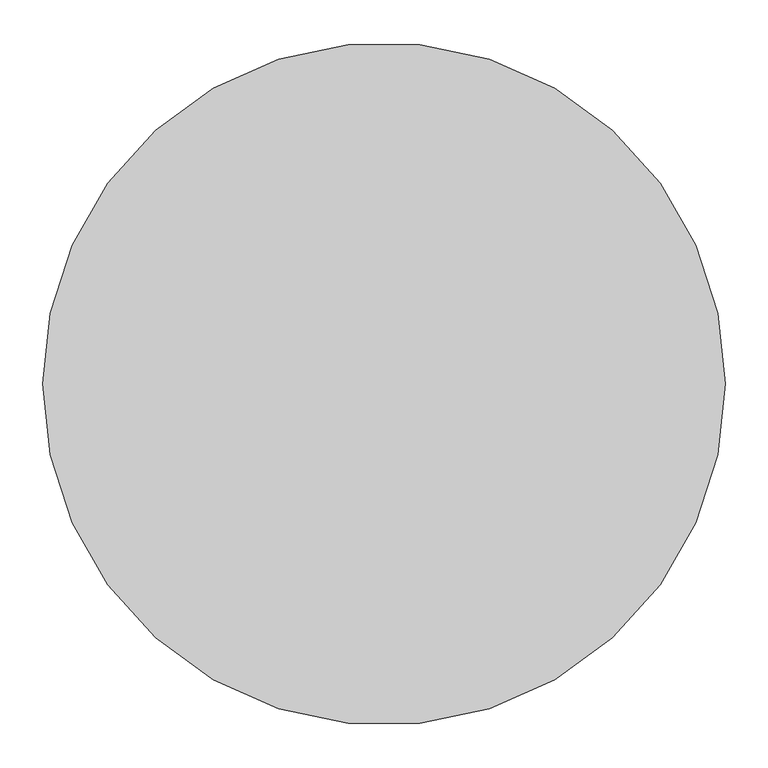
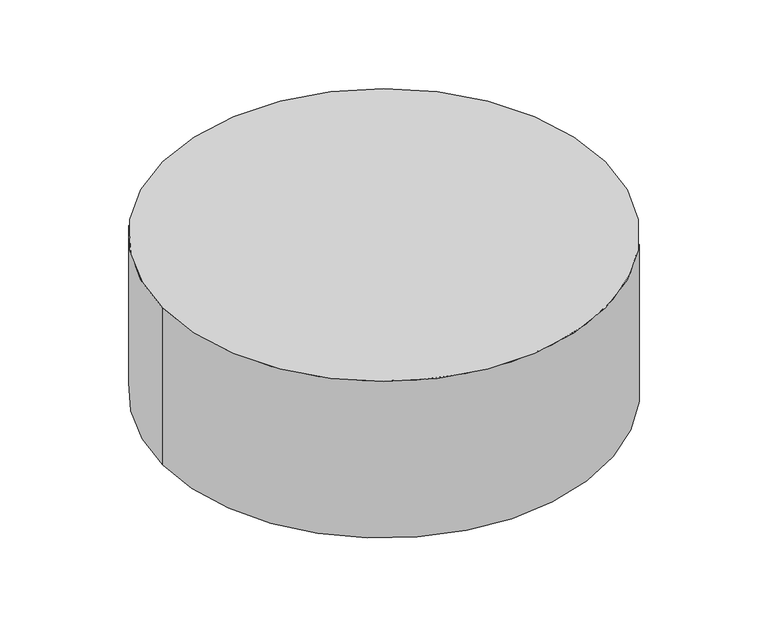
"""IFC4 building model written with IfcOpenShell, lengths in millimetres: furniture geometry, Puff.0001 : Puff.0001."""

from ifc_helpers import new_model, si_unit, point, origin, origin_with_axes, origin_2d, place, context, project, spatial, circle_curve, trimmed, segment, composite_curve, outline, extrude, source, transform, mapped, element, save


def furniture_f6384452(model_context):
    return source(origin(), model_context, "Body", "SweptSolid", [
        extrude(outline(composite_curve([segment(trimmed(circle_curve(origin_2d(), 400.0), [point((-400.0, 0.0))], [point((400.0, 0.0))], False, "CARTESIAN"), True, "CONTINUOUS"), segment(trimmed(circle_curve(origin_2d(), 400.0), [point((400.0, 0.0))], [point((-400.0, 0.0))], False, "CARTESIAN"), True, "CONTINUOUS")], self_intersect=False)), origin_with_axes(), (0.0, 0.0, 1.0), 300.0),
    ])


if __name__ == "__main__":
    model = new_model("IFC4")
    model_context = context("Model", 3, world=origin())
    ifc_project = project(units=[si_unit("LENGTHUNIT", "METRE", prefix="MILLI")], contexts=[model_context])
    site = spatial("IfcSite", under=ifc_project)
    building = spatial("IfcBuilding", under=site)
    placement = place(None, origin())
    furniture_shape = furniture_f6384452(model_context)
    element("IfcFurniture", 1, ObjectType="Puff.0001 : Puff.0001", at=placement, inside=building, context=model_context, shape_type="MappedRepresentation", body=[
        mapped(furniture_shape, transform((0.0, 0.0, 0.0), x_axis=(1.0, 0.0, 0.0), y_axis=(0.0, 1.0, 0.0), z_axis=(0.0, 0.0, 1.0))),
    ])
    save(model, "model.ifc")
